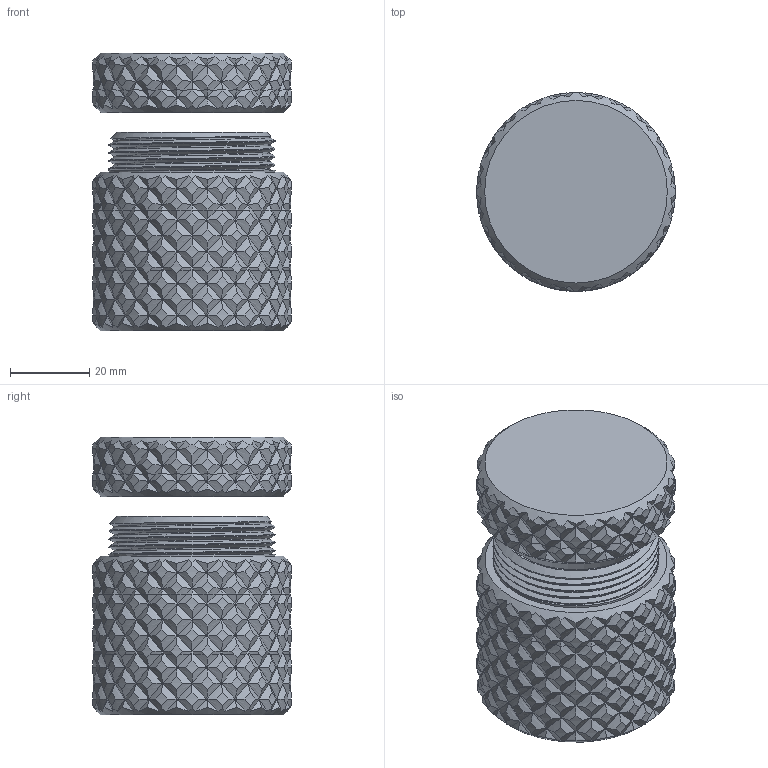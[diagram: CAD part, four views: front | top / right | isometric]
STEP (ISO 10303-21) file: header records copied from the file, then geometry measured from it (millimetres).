
FILE_DESCRIPTION(/* description */ (''),/* implementation_level */ '2;1');
FILE_NAME(/* name */ 'C:/Downloads/Knurled Box Corrected v2.step',/* time_stamp */ '2022-04-12T01:58:18-05:00',/* author */ (''),/* organization */ (''),/* preprocessor_version */ 'ST-DEVELOPER v18.1',/* originating_system */ 'Autodesk Translation Framework v10.14.0.1471',/* authorisation */ '');
FILE_SCHEMA (('AUTOMOTIVE_DESIGN { 1 0 10303 214 3 1 1 }'));
Products named in the file (3): Knurled Box Corrected; Knurled Base v1; Knurled Lid v1
Assembly tree (2 placements, depth 2):
  Knurled Box Corrected
    Knurled Base v1
    Knurled Lid v1
Bounding box: 50 x 50 x 70 mm (x, y, z)
Volume: 24579.9 mm3; surface area: 28338.8 mm2
Topology: 2 solids, 2 shells, 1651 faces, 3557 edges, 1914 vertices
Faces by surface type: bspline 1364, cylinder 265, plane 12, cone 10
Full cylindrical faces by diameter (mm): 37 x1, 39.529 x3, 40.023 x6, 41.822 x4, 42.257 x5, 46 x1
Entity records: 77989 total; most frequent: CARTESIAN_POINT 52498, ORIENTED_EDGE 7114, EDGE_CURVE 3557, B_SPLINE_CURVE_WITH_KNOTS 2858, VERTEX_POINT 1914, DIRECTION 1667, EDGE_LOOP 1654, FACE_OUTER_BOUND 1650
